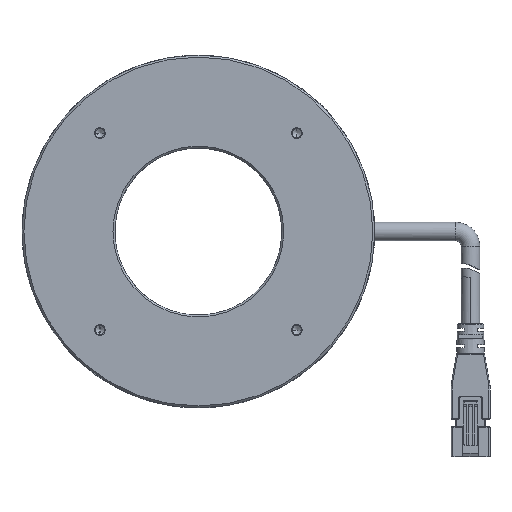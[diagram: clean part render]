
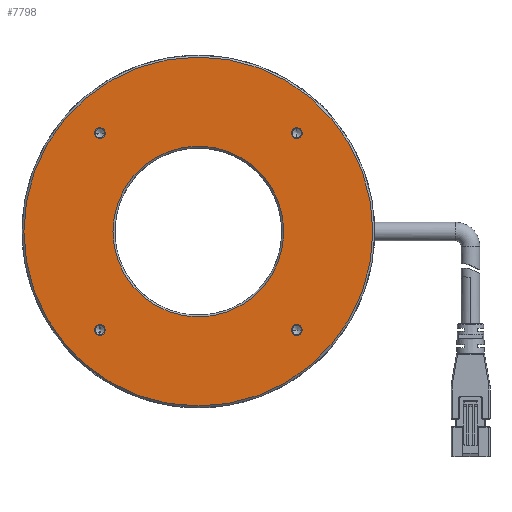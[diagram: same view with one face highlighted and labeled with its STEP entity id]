
A CAD part, top view. The second image highlights one B-rep face of the part: STEP entity #7798.
In plain terms, the highlighted planar face has unit normal (0, 0, 1).
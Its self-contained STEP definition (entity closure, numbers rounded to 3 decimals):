
#2093=CARTESIAN_POINT('',(-26.517,-26.517,1.5));
#2094=DIRECTION('',(0.,0.,-1.));
#2095=DIRECTION('',(0.,1.,0.));
#2096=AXIS2_PLACEMENT_3D('',#2093,#2094,#2095);
#2098=CARTESIAN_POINT('',(-26.517,-26.517,1.5));
#2099=DIRECTION('',(0.,0.,-1.));
#2100=DIRECTION('',(0.,-1.,0.));
#2101=AXIS2_PLACEMENT_3D('',#2098,#2099,#2100);
#2103=CARTESIAN_POINT('',(26.517,26.517,1.5));
#2104=DIRECTION('',(0.,0.,-1.));
#2105=DIRECTION('',(0.,1.,0.));
#2106=AXIS2_PLACEMENT_3D('',#2103,#2104,#2105);
#2108=CARTESIAN_POINT('',(26.517,26.517,1.5));
#2109=DIRECTION('',(0.,0.,-1.));
#2110=DIRECTION('',(0.,-1.,0.));
#2111=AXIS2_PLACEMENT_3D('',#2108,#2109,#2110);
#2113=CARTESIAN_POINT('',(0.,0.,1.5));
#2114=DIRECTION('',(0.,0.,-1.));
#2115=DIRECTION('',(0.,-1.,0.));
#2116=AXIS2_PLACEMENT_3D('',#2113,#2114,#2115);
#2118=CARTESIAN_POINT('',(0.,0.,1.5));
#2119=DIRECTION('',(0.,0.,-1.));
#2120=DIRECTION('',(0.,1.,0.));
#2121=AXIS2_PLACEMENT_3D('',#2118,#2119,#2120);
#2123=CARTESIAN_POINT('',(0.,0.,1.5));
#2124=DIRECTION('',(0.,0.,1.));
#2125=DIRECTION('',(0.,-1.,0.));
#2126=AXIS2_PLACEMENT_3D('',#2123,#2124,#2125);
#2128=CARTESIAN_POINT('',(0.,0.,1.5));
#2129=DIRECTION('',(0.,0.,1.));
#2130=DIRECTION('',(0.,1.,0.));
#2131=AXIS2_PLACEMENT_3D('',#2128,#2129,#2130);
#2137=CARTESIAN_POINT('',(-26.517,26.517,1.5));
#2138=DIRECTION('',(0.,0.,-1.));
#2139=DIRECTION('',(-1.,0.,0.));
#2140=AXIS2_PLACEMENT_3D('',#2137,#2138,#2139);
#2151=CARTESIAN_POINT('',(-26.517,26.517,1.5));
#2152=DIRECTION('',(0.,0.,-1.));
#2153=DIRECTION('',(1.,0.,0.));
#2154=AXIS2_PLACEMENT_3D('',#2151,#2152,#2153);
#2279=CARTESIAN_POINT('',(26.517,-26.517,1.5));
#2280=DIRECTION('',(0.,0.,-1.));
#2281=DIRECTION('',(1.,0.,0.));
#2282=AXIS2_PLACEMENT_3D('',#2279,#2280,#2281);
#2293=CARTESIAN_POINT('',(26.517,-26.517,1.5));
#2294=DIRECTION('',(0.,0.,-1.));
#2295=DIRECTION('',(-1.,0.,0.));
#2296=AXIS2_PLACEMENT_3D('',#2293,#2294,#2295);
#4666=CARTESIAN_POINT('',(0.,47.,1.5));
#4667=CARTESIAN_POINT('',(0.,-47.,1.5));
#4668=VERTEX_POINT('',#4666);
#4669=VERTEX_POINT('',#4667);
#4670=CARTESIAN_POINT('',(0.,23.,1.5));
#4671=CARTESIAN_POINT('',(0.,-23.,1.5));
#4672=VERTEX_POINT('',#4670);
#4673=VERTEX_POINT('',#4671);
#4674=CARTESIAN_POINT('',(26.517,25.067,1.5));
#4675=CARTESIAN_POINT('',(26.517,27.967,1.5));
#4676=VERTEX_POINT('',#4674);
#4677=VERTEX_POINT('',#4675);
#4678=CARTESIAN_POINT('',(-26.517,-27.967,1.5));
#4679=CARTESIAN_POINT('',(-26.517,-25.067,1.5));
#4680=VERTEX_POINT('',#4678);
#4681=VERTEX_POINT('',#4679);
#4736=CARTESIAN_POINT('',(27.967,-26.517,1.5));
#4738=VERTEX_POINT('',#4736);
#4741=CARTESIAN_POINT('',(25.067,-26.517,1.5));
#4743=VERTEX_POINT('',#4741);
#4770=CARTESIAN_POINT('',(-27.967,26.517,1.5));
#4772=VERTEX_POINT('',#4770);
#4775=CARTESIAN_POINT('',(-25.067,26.517,1.5));
#4777=VERTEX_POINT('',#4775);
#7759=CARTESIAN_POINT('',(0.,0.,1.5));
#7760=DIRECTION('',(0.,0.,-1.));
#7761=DIRECTION('',(0.,1.,0.));
#7762=AXIS2_PLACEMENT_3D('',#7759,#7760,#7761);
#7763=PLANE('',#7762);
#7765=ORIENTED_EDGE('',*,*,#7764,.F.);
#7767=ORIENTED_EDGE('',*,*,#7766,.F.);
#7768=EDGE_LOOP('',(#7765,#7767));
#7769=FACE_OUTER_BOUND('',#7768,.F.);
#7771=ORIENTED_EDGE('',*,*,#7770,.F.);
#7773=ORIENTED_EDGE('',*,*,#7772,.F.);
#7774=EDGE_LOOP('',(#7771,#7773));
#7775=FACE_BOUND('',#7774,.F.);
#7777=ORIENTED_EDGE('',*,*,#7776,.F.);
#7779=ORIENTED_EDGE('',*,*,#7778,.F.);
#7780=EDGE_LOOP('',(#7777,#7779));
#7781=FACE_BOUND('',#7780,.F.);
#7783=ORIENTED_EDGE('',*,*,#7782,.F.);
#7785=ORIENTED_EDGE('',*,*,#7784,.F.);
#7786=EDGE_LOOP('',(#7783,#7785));
#7787=FACE_BOUND('',#7786,.F.);
#7788=ORIENTED_EDGE('',*,*,#7745,.F.);
#7789=ORIENTED_EDGE('',*,*,#7724,.F.);
#7790=EDGE_LOOP('',(#7788,#7789));
#7791=FACE_BOUND('',#7790,.F.);
#7793=ORIENTED_EDGE('',*,*,#7792,.F.);
#7795=ORIENTED_EDGE('',*,*,#7794,.F.);
#7796=EDGE_LOOP('',(#7793,#7795));
#7797=FACE_BOUND('',#7796,.F.);
#7798=ADVANCED_FACE('',(#7769,#7775,#7781,#7787,#7791,#7797),#7763,.F.);
#2097=CIRCLE('',#2096,1.45);
#2102=CIRCLE('',#2101,1.45);
#2107=CIRCLE('',#2106,1.45);
#2112=CIRCLE('',#2111,1.45);
#2117=CIRCLE('',#2116,23.);
#2122=CIRCLE('',#2121,23.);
#2127=CIRCLE('',#2126,47.);
#2132=CIRCLE('',#2131,47.);
#2141=CIRCLE('',#2140,1.45);
#2155=CIRCLE('',#2154,1.45);
#2283=CIRCLE('',#2282,1.45);
#2297=CIRCLE('',#2296,1.45);
#7724=EDGE_CURVE('',#4672,#4673,#2122,.T.);
#7745=EDGE_CURVE('',#4673,#4672,#2117,.T.);
#7764=EDGE_CURVE('',#4669,#4668,#2127,.T.);
#7766=EDGE_CURVE('',#4668,#4669,#2132,.T.);
#7770=EDGE_CURVE('',#4681,#4680,#2097,.T.);
#7772=EDGE_CURVE('',#4680,#4681,#2102,.T.);
#7776=EDGE_CURVE('',#4677,#4676,#2107,.T.);
#7778=EDGE_CURVE('',#4676,#4677,#2112,.T.);
#7782=EDGE_CURVE('',#4738,#4743,#2283,.T.);
#7784=EDGE_CURVE('',#4743,#4738,#2297,.T.);
#7792=EDGE_CURVE('',#4772,#4777,#2141,.T.);
#7794=EDGE_CURVE('',#4777,#4772,#2155,.T.);
